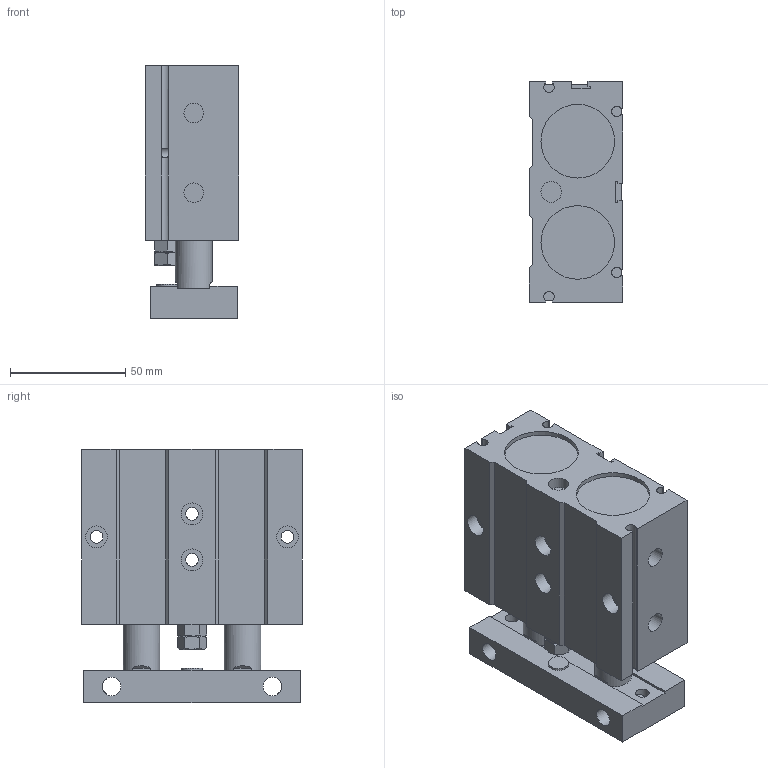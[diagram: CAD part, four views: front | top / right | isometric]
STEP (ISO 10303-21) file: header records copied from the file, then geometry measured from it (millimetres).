
FILE_DESCRIPTION((''),'2;1');
FILE_NAME('I:\3D電子目錄\氣缸\TD\TD32\TD32\TD32X10.stp','2007-08-06T10:17:34',('Administrator'),(''),'Autodesk Inventor 2008','Autodesk Inventor 2008','');
FILE_SCHEMA(('AUTOMOTIVE_DESIGN { 1 0 10303 214 1 1 1 1 }'));
Length unit declared in the file: millimetre
Products named in the file (1): TD32X10
Bounding box: 40.5 x 96 x 110 mm (x, y, z)
Volume: 320248.6 mm3; surface area: 53598.4 mm2
Topology: 1 solids, 3 shells, 174 faces, 436 edges, 288 vertices
Faces by surface type: plane 125, cylinder 36, cone 7, bspline 4, torus 2
Full cylindrical faces by diameter (mm): 5.5 x4, 6 x2, 8 x2, 8.5 x2, 9 x2, 9.5 x8, 12 x2, 13 x2, 14 x2, 16 x2, 32 x4
Entity records: 5443 total; most frequent: CARTESIAN_POINT 1396, DIRECTION 803, ORIENTED_EDGE 770, EDGE_CURVE 385, VERTEX_POINT 278, AXIS2_PLACEMENT_3D 271, EDGE_LOOP 265, VECTOR 261
